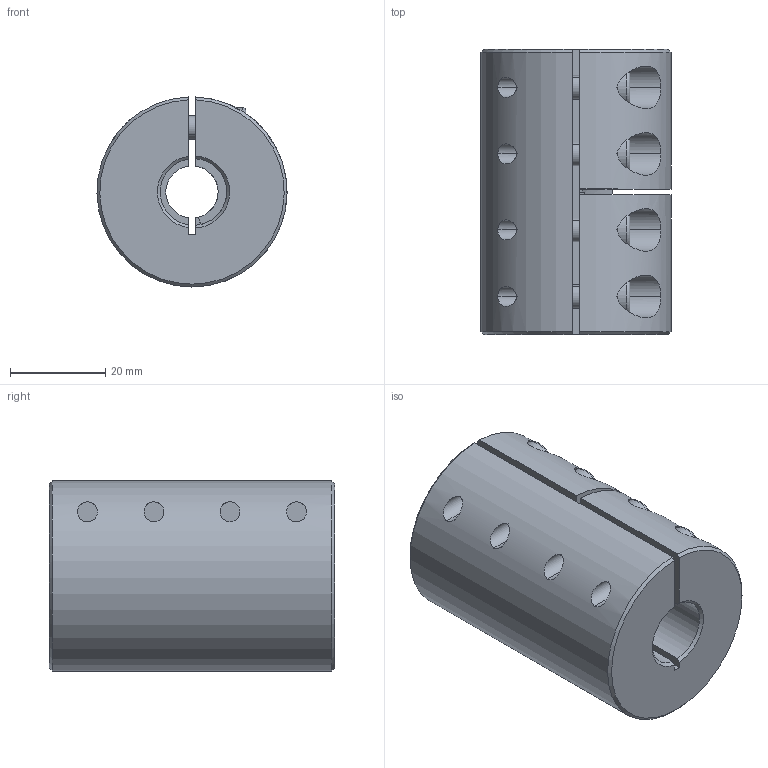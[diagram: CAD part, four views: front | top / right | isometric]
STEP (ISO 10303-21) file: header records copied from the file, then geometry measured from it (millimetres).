
FILE_DESCRIPTION (( 'STEP AP214' ), '1' );
FILE_NAME ('LL-B-D40L60-11-14½¨Ä£.STEP', '2022-07-22T00:56:16', ( '' ), ( '' ), 'SwSTEP 2.0', 'SolidWorks 2022', '' );
FILE_SCHEMA (( 'AUTOMOTIVE_DESIGN' ));
Length unit declared in the file: millimetre
Products named in the file (1): LL-B-D40L60-11-14膘耀
Bounding box: 40 x 60 x 39.99 mm (x, y, z)
Volume: 64372.2 mm3; surface area: 17404.7 mm2
Topology: 1 solids, 1 shells, 182 faces, 463 edges, 291 vertices
Faces by surface type: plane 88, cylinder 71, cone 15, torus 8
Entity records: 6015 total; most frequent: CARTESIAN_POINT 1525, DIRECTION 971, ORIENTED_EDGE 910, EDGE_CURVE 455, AXIS2_PLACEMENT_3D 377, VERTEX_POINT 291, LINE 217, VECTOR 217
